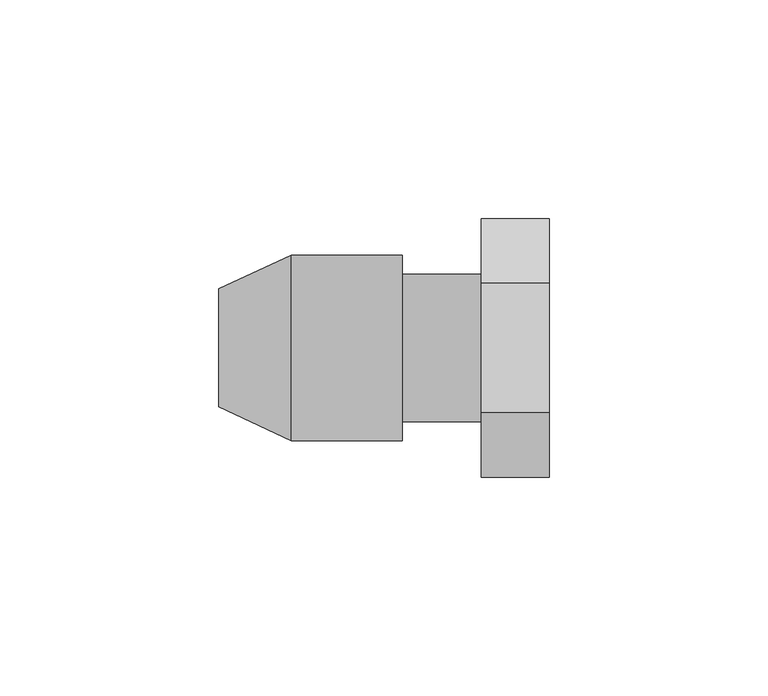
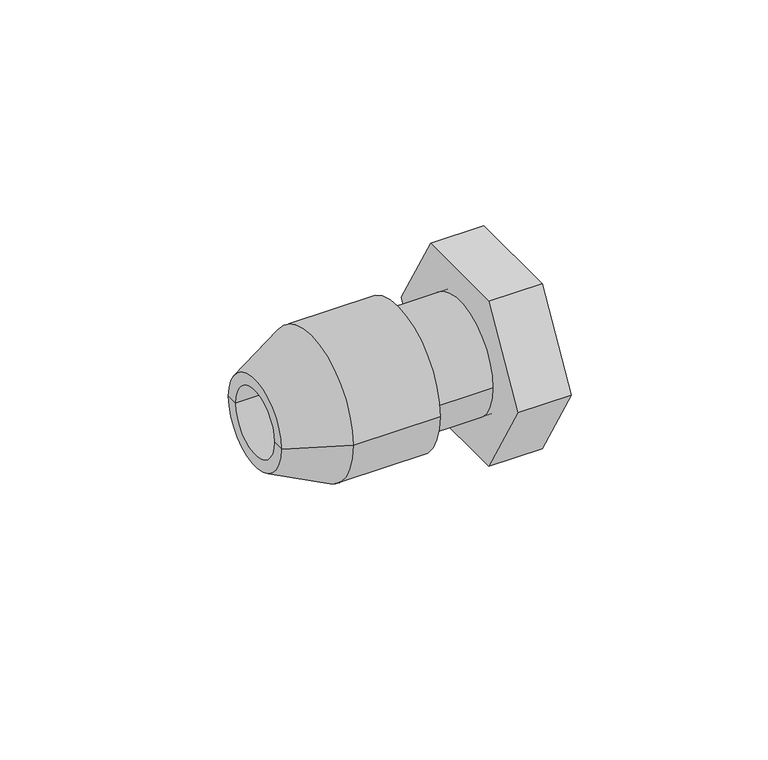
"""IFC4 building model written with IfcOpenShell, lengths in millimetres: pipe fitting geometry."""

from ifc_helpers import new_model, si_unit, point, frame, origin, origin_2d, place, context, project, spatial, polyline, circle_curve, trimmed, segment, composite_curve, outline, extrude, source, transform, mapped, element, save
from ifc_brep_helpers import plane_surface, cylinder_surface, revolved_surface, advanced_brep


def pipe_fitting_35955b42(model_context):
    return source(origin(), model_context, "Body", "SolidModel", [
        extrude(outline(polyline([(29.5603338, 0.0), (14.7801669, -25.6), (-14.7801669, -25.6), (-29.5603338, 0.0), (-14.7801669, 25.6), (14.7801669, 25.6), (29.5603338, 0.0)]), holes=[composite_curve([segment(trimmed(circle_curve(origin_2d(), 16.85), [point((16.85, 0.0))], [point((-16.85, 0.0))], True, "CARTESIAN"), True, "CONTINUOUS"), segment(trimmed(circle_curve(origin_2d(), 16.85), [point((-16.85, 0.0))], [point((16.85, 0.0))], True, "CARTESIAN"), True, "CONTINUOUS")], self_intersect=False)]), frame((12.0, 0.0, 0.0), z_axis=(1.0, 0.0, 0.0), x_axis=(0.0, 1.0, 0.0)), (0.0, 0.0, 1.0), 15.6195019),
        advanced_brep(
        [(-6.0, -21.25, 0.0), (-6.0, 21.25, 0.0), (-6.0, 0.0, 0.0), (-31.3800714, -21.25, 0.0), (-31.3800714, 21.25, 0.0), (-48.0, -13.5, 0.0), (-48.0, 13.5, 0.0), (-48.0, -10.0, 0.0), (-48.0, 10.0, 0.0), (-19.0, -10.0, 0.0), (-19.0, 10.0, 0.0), (-19.0, 0.0, 0.0)],
        [
            (0, 1, circle_curve(frame((-6.0, 0.0, 0.0), z_axis=(1.0, 0.0, 0.0), x_axis=(0.0, 1.0, 0.0)), 21.25)),
            (1, 2),
            (2, 0),
            (1, 0, circle_curve(frame((-6.0, 0.0, 0.0), z_axis=(1.0, 0.0, 0.0), x_axis=(0.0, 1.0, 0.0)), 21.25)),
            (3, 4, circle_curve(frame((-31.3800714, 0.0, 0.0), z_axis=(1.0, 0.0, 0.0), x_axis=(0.0, 1.0, 0.0)), 21.25)),
            (4, 1),
            (0, 3),
            (4, 3, circle_curve(frame((-31.3800714, 0.0, 0.0), z_axis=(1.0, 0.0, 0.0), x_axis=(0.0, 1.0, 0.0)), 21.25)),
            (5, 6, circle_curve(frame((-48.0, 0.0, 0.0), z_axis=(1.0, 0.0, 0.0), x_axis=(0.0, 1.0, 0.0)), 13.5)),
            (6, 4),
            (3, 5),
            (6, 5, circle_curve(frame((-48.0, 0.0, 0.0), z_axis=(1.0, 0.0, 0.0), x_axis=(0.0, 1.0, 0.0)), 13.5)),
            (7, 8, circle_curve(frame((-48.0, 0.0, 0.0), z_axis=(1.0, 0.0, 0.0), x_axis=(0.0, 1.0, 0.0)), 10.0)),
            (8, 6),
            (5, 7),
            (8, 7, circle_curve(frame((-48.0, 0.0, 0.0), z_axis=(1.0, 0.0, 0.0), x_axis=(0.0, 1.0, 0.0)), 10.0)),
            (9, 10, circle_curve(frame((-19.0, 0.0, 0.0), z_axis=(1.0, 0.0, 0.0), x_axis=(0.0, 1.0, 0.0)), 10.0)),
            (10, 8),
            (7, 9),
            (10, 9, circle_curve(frame((-19.0, 0.0, 0.0), z_axis=(1.0, 0.0, 0.0), x_axis=(0.0, 1.0, 0.0)), 10.0)),
            (11, 10),
            (9, 11),
        ],
        [
            plane_surface(frame((-6.0, 0.0, 0.0), z_axis=(1.0, 0.0, 0.0), x_axis=(0.0, 1.0, 0.0))),
            cylinder_surface(frame((-58.0, 0.0, 0.0), z_axis=(-1.0, 0.0, 0.0), x_axis=(0.0, 1.0, 0.0)), 21.25),
            revolved_surface(polyline([(-31.3800714, 21.25, 0.0), (-48.0, 13.5, 0.0)]), (-58.0, 0.0, 0.0), (-1.0, 0.0, 0.0)),
            plane_surface(frame((-48.0, 0.0, 0.0), z_axis=(-1.0, 0.0, 0.0), x_axis=(0.0, 1.0, 0.0))),
            revolved_surface(polyline([(-48.0, 10.0, 0.0), (-19.0, 10.0, 0.0)]), (-58.0, 0.0, 0.0), (-1.0, 0.0, 0.0)),
            plane_surface(frame((-19.0, 0.0, 0.0), z_axis=(-1.0, 0.0, 0.0), x_axis=(0.0, 1.0, 0.0))),
        ],
        [
            (0, [[1, 2, 3]]),
            (0, [[4, -3, -2]]),
            (1, [[5, 6, -1, 7]]),
            (1, [[8, -7, -4, -6]]),
            (2, [[9, 10, -5, 11]]),
            (2, [[12, -11, -8, -10]]),
            (3, [[13, 14, -9, 15]]),
            (3, [[16, -15, -12, -14]]),
            (4, [[17, 18, -13, 19]]),
            (4, [[20, -19, -16, -18]]),
            (5, [[21, -17, 22]]),
            (5, [[-22, -20, -21]]),
        ],
    ),
        extrude(outline(composite_curve([segment(trimmed(circle_curve(origin_2d(), 16.85), [point((-16.85, 0.0))], [point((16.85, 0.0))], False, "CARTESIAN"), True, "CONTINUOUS"), segment(trimmed(circle_curve(origin_2d(), 16.85), [point((16.85, 0.0))], [point((-16.85, 0.0))], False, "CARTESIAN"), True, "CONTINUOUS")], self_intersect=False)), frame((-19.0, 0.0, 0.0), z_axis=(1.0, 0.0, 0.0), x_axis=(0.0, 1.0, 0.0)), (0.0, 0.0, 1.0), 38.0),
    ])


if __name__ == "__main__":
    model = new_model("IFC4")
    model_context = context("Model", 3, world=origin())
    ifc_project = project(units=[si_unit("LENGTHUNIT", "METRE", prefix="MILLI")], contexts=[model_context])
    site = spatial("IfcSite", under=ifc_project)
    building = spatial("IfcBuilding", under=site)
    placement = place(None, origin())
    pipe_fitting_shape = pipe_fitting_35955b42(model_context)
    element("IfcPipeFitting", 1, ObjectType="NLRS_50_PIF_UN_PushFit overgang met wartel_geb : DN15-20-G1\" / d20-25-G1\"", at=placement, inside=building, context=model_context, shape_type="MappedRepresentation", body=[
        mapped(pipe_fitting_shape, transform((0.0, 0.0, 0.0), x_axis=(1.0, 0.0, 0.0), y_axis=(0.0, 1.0, 0.0), z_axis=(0.0, 0.0, 1.0))),
    ])
    save(model, "model.ifc")
